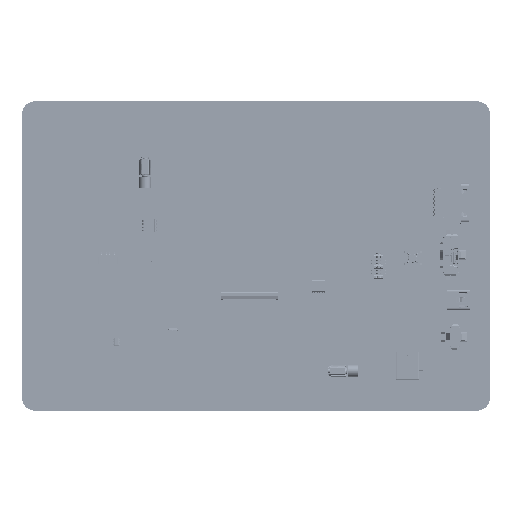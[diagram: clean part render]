
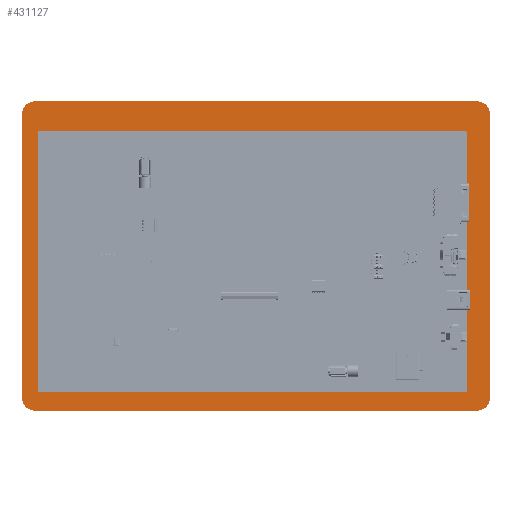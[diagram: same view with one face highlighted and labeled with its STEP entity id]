
A CAD part, top view. The second image highlights one B-rep face of the part: STEP entity #431127.
In plain terms, the highlighted planar face has unit normal (0, 0, 1) as drawn and (0, 0, -1) by its records, which use the part's own axes.
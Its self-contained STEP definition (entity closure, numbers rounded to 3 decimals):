
#1548 = VECTOR ( 'NONE', #420957, 1000. ) ;
#5623 = ORIENTED_EDGE ( 'NONE', *, *, #373474, .F. ) ;
#5817 = CARTESIAN_POINT ( 'NONE',  ( -89.98, -54.5, 0. ) ) ;
#9154 = DIRECTION ( 'NONE',  ( 0., 1., 0. ) ) ;
#22793 = DIRECTION ( 'NONE',  ( 0., 0., 1. ) ) ;
#24949 = ORIENTED_EDGE ( 'NONE', *, *, #527923, .F. ) ;
#34244 = DIRECTION ( 'NONE',  ( 1., 0., 0. ) ) ;
#39762 = CARTESIAN_POINT ( 'NONE',  ( 84.98, -59.5, 0. ) ) ;
#46759 = CARTESIAN_POINT ( 'NONE',  ( 89.98, -54.5, 0. ) ) ;
#57726 = CIRCLE ( 'NONE', #609850, 5. ) ;
#58776 = EDGE_CURVE ( 'NONE', #259571, #571366, #95205, .T. ) ;
#60737 = AXIS2_PLACEMENT_3D ( 'NONE', #65092, #530926, #635538 ) ;
#65092 = CARTESIAN_POINT ( 'NONE',  ( -84.98, 54.5, 0. ) ) ;
#71663 = EDGE_CURVE ( 'NONE', #459712, #655811, #639398, .T. ) ;
#74364 = VECTOR ( 'NONE', #667834, 1000. ) ;
#75040 = DIRECTION ( 'NONE',  ( 0., 0., 1. ) ) ;
#87409 = VECTOR ( 'NONE', #441487, 1000. ) ;
#95205 = LINE ( 'NONE', #664501, #298814 ) ;
#98997 = AXIS2_PLACEMENT_3D ( 'NONE', #288825, #75040, #341139 ) ;
#103815 = LINE ( 'NONE', #175520, #87409 ) ;
#115181 = VERTEX_POINT ( 'NONE', #466948 ) ;
#117395 = CARTESIAN_POINT ( 'NONE',  ( -84.98, 59.5, 0. ) ) ;
#127543 = EDGE_CURVE ( 'NONE', #115181, #342598, #291429, .T. ) ;
#129285 = EDGE_CURVE ( 'NONE', #640039, #404988, #402035, .T. ) ;
#131835 = DIRECTION ( 'NONE',  ( 1., 0., 0. ) ) ;
#135646 = CARTESIAN_POINT ( 'NONE',  ( -84.98, 59.5, 0. ) ) ;
#139838 = LINE ( 'NONE', #261915, #1548 ) ;
#144031 = CARTESIAN_POINT ( 'NONE',  ( 83.84, -51.77, 0. ) ) ;
#151261 = CARTESIAN_POINT ( 'NONE',  ( -84.98, -59.5, 0. ) ) ;
#168228 = CARTESIAN_POINT ( 'NONE',  ( -80.56, 48.23, 0. ) ) ;
#175520 = CARTESIAN_POINT ( 'NONE',  ( 83.84, 48.23, 0. ) ) ;
#183428 = CARTESIAN_POINT ( 'NONE',  ( -89.98, 54.5, 0. ) ) ;
#189066 = EDGE_LOOP ( 'NONE', ( #568701, #670463, #459681, #343587 ) ) ;
#190975 = ORIENTED_EDGE ( 'NONE', *, *, #127543, .F. ) ;
#230326 = EDGE_CURVE ( 'NONE', #404988, #368540, #493829, .T. ) ;
#232492 = DIRECTION ( 'NONE',  ( 1., 0., 0. ) ) ;
#234145 = CARTESIAN_POINT ( 'NONE',  ( -84.98, -54.5, 0. ) ) ;
#259571 = VERTEX_POINT ( 'NONE', #144031 ) ;
#260382 = ORIENTED_EDGE ( 'NONE', *, *, #129285, .F. ) ;
#261915 = CARTESIAN_POINT ( 'NONE',  ( -89.98, 54.5, 0. ) ) ;
#275669 = EDGE_LOOP ( 'NONE', ( #342414, #654420, #190975, #5623, #610007, #260382, #24949, #570852 ) ) ;
#288825 = CARTESIAN_POINT ( 'NONE',  ( 84.98, 54.5, 0. ) ) ;
#291429 = CIRCLE ( 'NONE', #98997, 5. ) ;
#298814 = VECTOR ( 'NONE', #557692, 1000. ) ;
#301587 = VECTOR ( 'NONE', #9154, 1000. ) ;
#302233 = CARTESIAN_POINT ( 'NONE',  ( 89.98, 54.5, 0. ) ) ;
#313570 = VECTOR ( 'NONE', #399401, 1000. ) ;
#321139 = VECTOR ( 'NONE', #406062, 1000. ) ;
#322195 = PLANE ( 'NONE',  #60737 ) ;
#332534 = CARTESIAN_POINT ( 'NONE',  ( -84.98, -59.5, 0. ) ) ;
#341139 = DIRECTION ( 'NONE',  ( 1., 0., 0. ) ) ;
#342414 = ORIENTED_EDGE ( 'NONE', *, *, #590909, .F. ) ;
#342598 = VERTEX_POINT ( 'NONE', #421756 ) ;
#343587 = ORIENTED_EDGE ( 'NONE', *, *, #58776, .F. ) ;
#343807 = DIRECTION ( 'NONE',  ( 0., 0., 1. ) ) ;
#351101 = LINE ( 'NONE', #302233, #74364 ) ;
#363397 = VERTEX_POINT ( 'NONE', #183428 ) ;
#368540 = VERTEX_POINT ( 'NONE', #46759 ) ;
#368649 = FACE_BOUND ( 'NONE', #189066, .T. ) ;
#373474 = EDGE_CURVE ( 'NONE', #368540, #115181, #351101, .T. ) ;
#388172 = AXIS2_PLACEMENT_3D ( 'NONE', #595636, #545655, #34244 ) ;
#392955 = AXIS2_PLACEMENT_3D ( 'NONE', #493754, #343807, #495950 ) ;
#399401 = DIRECTION ( 'NONE',  ( -1., 0., 0. ) ) ;
#402035 = LINE ( 'NONE', #151261, #321139 ) ;
#404988 = VERTEX_POINT ( 'NONE', #39762 ) ;
#406062 = DIRECTION ( 'NONE',  ( 1., 0., 0. ) ) ;
#409337 = CARTESIAN_POINT ( 'NONE',  ( 83.84, 48.23, 0. ) ) ;
#414900 = CIRCLE ( 'NONE', #392955, 5. ) ;
#420957 = DIRECTION ( 'NONE',  ( 0., -1., 0. ) ) ;
#421756 = CARTESIAN_POINT ( 'NONE',  ( 84.98, 59.5, 0. ) ) ;
#431127 = ADVANCED_FACE ( 'NONE', ( #506626, #368649 ), #322195, .F. ) ;
#437193 = CARTESIAN_POINT ( 'NONE',  ( 83.84, 48.23, 0. ) ) ;
#439879 = LINE ( 'NONE', #168228, #301587 ) ;
#441487 = DIRECTION ( 'NONE',  ( 0., -1., 0. ) ) ;
#451784 = LINE ( 'NONE', #135646, #313570 ) ;
#459681 = ORIENTED_EDGE ( 'NONE', *, *, #491569, .F. ) ;
#459712 = VERTEX_POINT ( 'NONE', #582862 ) ;
#466486 = VERTEX_POINT ( 'NONE', #5817 ) ;
#466948 = CARTESIAN_POINT ( 'NONE',  ( 89.98, 54.5, 0. ) ) ;
#491569 = EDGE_CURVE ( 'NONE', #571366, #459712, #439879, .T. ) ;
#493754 = CARTESIAN_POINT ( 'NONE',  ( -84.98, 54.5, 0. ) ) ;
#493829 = CIRCLE ( 'NONE', #388172, 5. ) ;
#495950 = DIRECTION ( 'NONE',  ( 1., 0., 0. ) ) ;
#506626 = FACE_OUTER_BOUND ( 'NONE', #275669, .T. ) ;
#519397 = VERTEX_POINT ( 'NONE', #117395 ) ;
#527592 = EDGE_CURVE ( 'NONE', #363397, #466486, #139838, .T. ) ;
#527923 = EDGE_CURVE ( 'NONE', #466486, #640039, #57726, .T. ) ;
#530926 = DIRECTION ( 'NONE',  ( 0., 0., 1. ) ) ;
#533665 = VECTOR ( 'NONE', #232492, 1000. ) ;
#545655 = DIRECTION ( 'NONE',  ( 0., 0., 1. ) ) ;
#557692 = DIRECTION ( 'NONE',  ( -1., 0., 0. ) ) ;
#568701 = ORIENTED_EDGE ( 'NONE', *, *, #622225, .F. ) ;
#570810 = CARTESIAN_POINT ( 'NONE',  ( -80.56, -51.77, 0. ) ) ;
#570852 = ORIENTED_EDGE ( 'NONE', *, *, #527592, .F. ) ;
#571366 = VERTEX_POINT ( 'NONE', #570810 ) ;
#581809 = EDGE_CURVE ( 'NONE', #342598, #519397, #451784, .T. ) ;
#582862 = CARTESIAN_POINT ( 'NONE',  ( -80.56, 48.23, 0. ) ) ;
#590909 = EDGE_CURVE ( 'NONE', #519397, #363397, #414900, .T. ) ;
#595636 = CARTESIAN_POINT ( 'NONE',  ( 84.98, -54.5, 0. ) ) ;
#609850 = AXIS2_PLACEMENT_3D ( 'NONE', #234145, #22793, #131835 ) ;
#610007 = ORIENTED_EDGE ( 'NONE', *, *, #230326, .F. ) ;
#622225 = EDGE_CURVE ( 'NONE', #655811, #259571, #103815, .T. ) ;
#635538 = DIRECTION ( 'NONE',  ( 1., 0., 0. ) ) ;
#639398 = LINE ( 'NONE', #437193, #533665 ) ;
#640039 = VERTEX_POINT ( 'NONE', #332534 ) ;
#654420 = ORIENTED_EDGE ( 'NONE', *, *, #581809, .F. ) ;
#655811 = VERTEX_POINT ( 'NONE', #409337 ) ;
#664501 = CARTESIAN_POINT ( 'NONE',  ( 83.84, -51.77, 0. ) ) ;
#667834 = DIRECTION ( 'NONE',  ( 0., 1., 0. ) ) ;
#670463 = ORIENTED_EDGE ( 'NONE', *, *, #71663, .F. ) ;
